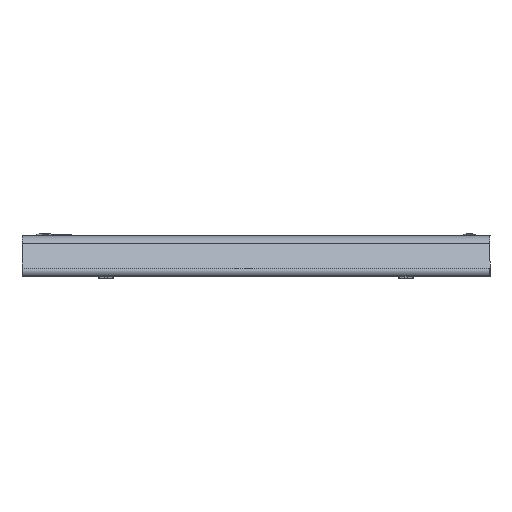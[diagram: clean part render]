
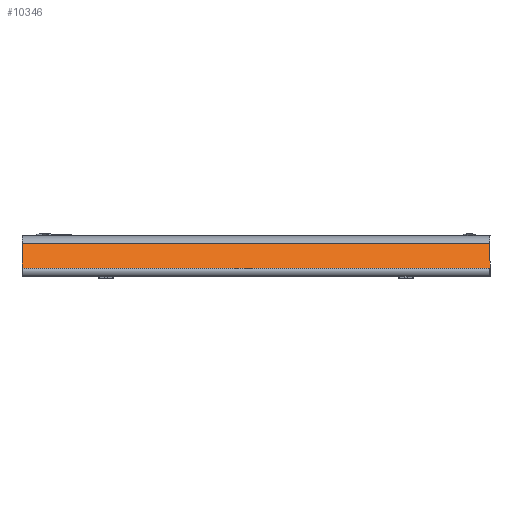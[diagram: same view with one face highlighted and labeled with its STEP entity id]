
A CAD part, left-side view. The second image highlights one B-rep face of the part: STEP entity #10346.
In plain terms, the highlighted planar face has unit normal (-0.787, 0, 0.617).
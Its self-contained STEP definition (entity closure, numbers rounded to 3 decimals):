
#49=CARTESIAN_POINT('',(96.259,50.5,34.105));
#50=VERTEX_POINT('',#49);
#68=CARTESIAN_POINT('',(96.259,4.5,34.105));
#69=VERTEX_POINT('',#68);
#77=CARTESIAN_POINT('',(96.259,50.5,34.105));
#78=DIRECTION('',(0.0,-1.0,0.0));
#79=VECTOR('',#78,46.);
#80=LINE('',#77,#79);
#81=EDGE_CURVE('',#50,#69,#80,.T.);
#93=CARTESIAN_POINT('',(98.162,50.5,36.531));
#94=VERTEX_POINT('',#93);
#102=CARTESIAN_POINT('',(98.162,4.5,36.531));
#103=VERTEX_POINT('',#102);
#104=CARTESIAN_POINT('',(98.162,50.5,36.531));
#105=DIRECTION('',(0.0,-1.0,0.0));
#106=VECTOR('',#105,46.);
#107=LINE('',#104,#106);
#108=EDGE_CURVE('',#94,#103,#107,.T.);
#8498=CARTESIAN_POINT('',(98.162,4.5,36.531));
#8499=DIRECTION('',(-0.617,0.,-0.787));
#8500=VECTOR('',#8499,3.083);
#8501=LINE('',#8498,#8500);
#8502=EDGE_CURVE('',#103,#69,#8501,.T.);
#10330=CARTESIAN_POINT('',(96.164,2.2,33.984));
#10331=DIRECTION('',(-0.787,0.,0.617));
#10332=DIRECTION('',(0.617,0.0,0.787));
#10333=AXIS2_PLACEMENT_3D('',#10330,#10331,#10332);
#10334=PLANE('',#10333);
#10335=ORIENTED_EDGE('',*,*,#108,.F.);
#10336=CARTESIAN_POINT('',(98.162,50.5,36.531));
#10337=DIRECTION('',(-0.617,0.0,-0.787));
#10338=VECTOR('',#10337,3.083);
#10339=LINE('',#10336,#10338);
#10340=EDGE_CURVE('',#94,#50,#10339,.T.);
#10341=ORIENTED_EDGE('',*,*,#10340,.T.);
#10342=ORIENTED_EDGE('',*,*,#81,.T.);
#10343=ORIENTED_EDGE('',*,*,#8502,.F.);
#10344=EDGE_LOOP('',(#10335,#10341,#10342,#10343));
#10345=FACE_OUTER_BOUND('',#10344,.T.);
#10346=ADVANCED_FACE('',(#10345),#10334,.T.);
